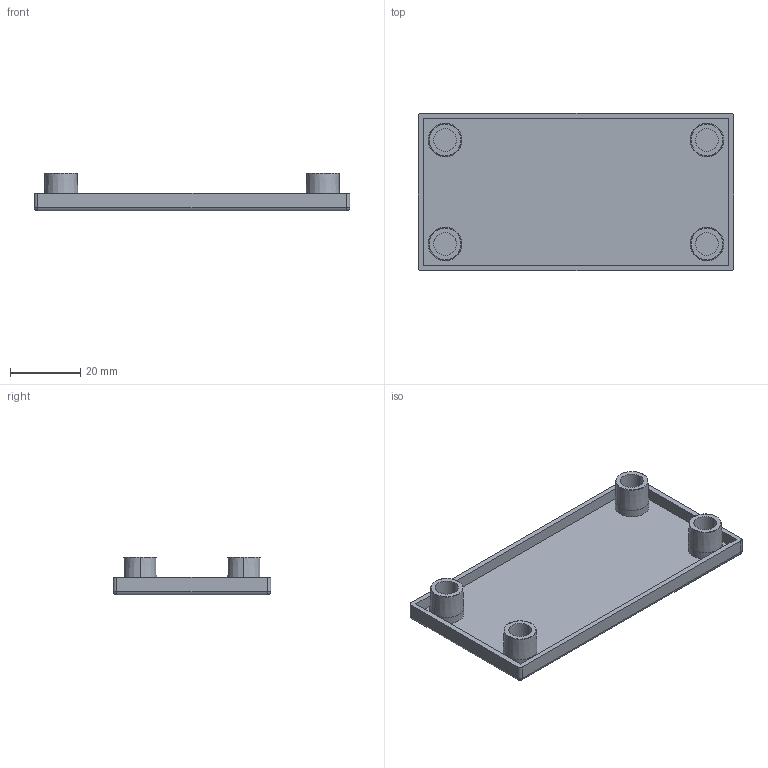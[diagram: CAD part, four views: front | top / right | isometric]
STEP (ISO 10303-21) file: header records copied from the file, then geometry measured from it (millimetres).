
FILE_DESCRIPTION (( 'STEP AP203' ), '1' );
FILE_NAME ('DEC4590.STEP', '2022-06-24T02:54:30', ( '' ), ( '' ), 'SwSTEP 2.0', 'SolidWorks 2017', '' );
FILE_SCHEMA (( 'CONFIG_CONTROL_DESIGN' ));
Length unit declared in the file: millimetre
Products named in the file (1): DEC4590
Bounding box: 90 x 45 x 10.7 mm (x, y, z)
Volume: 8758.5 mm3; surface area: 12042.9 mm2
Topology: 1 solids, 1 shells, 63 faces, 132 edges, 76 vertices
Faces by surface type: cylinder 24, plane 19, torus 8, cone 8, sphere 4
Entity records: 1727 total; most frequent: DIRECTION 328, CARTESIAN_POINT 268, ORIENTED_EDGE 256, AXIS2_PLACEMENT_3D 136, EDGE_CURVE 128, VERTEX_POINT 76, EDGE_LOOP 72, CIRCLE 72
